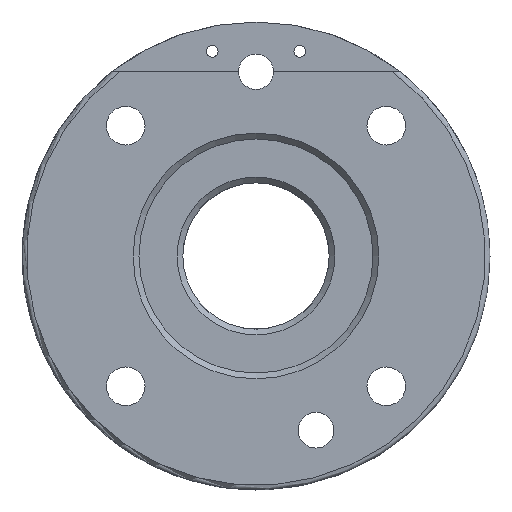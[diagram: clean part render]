
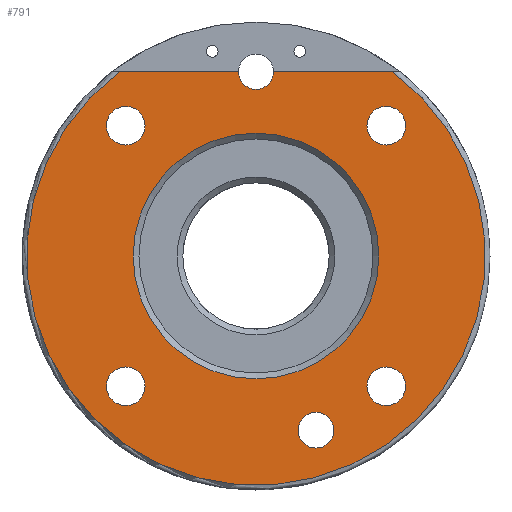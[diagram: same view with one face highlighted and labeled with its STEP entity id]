
A CAD part, front view. The second image highlights one B-rep face of the part: STEP entity #791.
In plain terms, the highlighted planar face has unit normal (0, -1, 0).
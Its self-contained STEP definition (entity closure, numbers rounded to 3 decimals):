
#37=FACE_BOUND('',#167,.T.);
#38=FACE_BOUND('',#168,.T.);
#39=FACE_BOUND('',#169,.T.);
#40=FACE_BOUND('',#170,.T.);
#41=FACE_BOUND('',#171,.T.);
#42=FACE_BOUND('',#172,.T.);
#57=PLANE('',#896);
#109=FACE_OUTER_BOUND('',#166,.T.);
#166=EDGE_LOOP('',(#646,#647,#648,#649));
#167=EDGE_LOOP('',(#650));
#168=EDGE_LOOP('',(#651));
#169=EDGE_LOOP('',(#652));
#170=EDGE_LOOP('',(#653));
#171=EDGE_LOOP('',(#654));
#172=EDGE_LOOP('',(#655));
#186=LINE('',#1177,#228);
#217=LINE('',#1487,#259);
#228=VECTOR('',#934,10.);
#259=VECTOR('',#1095,10.);
#267=CIRCLE('',#825,3.05);
#270=CIRCLE('',#829,39.2);
#286=CIRCLE('',#852,3.3);
#289=CIRCLE('',#858,3.3);
#292=CIRCLE('',#864,3.3);
#295=CIRCLE('',#870,3.3);
#306=CIRCLE('',#897,3.);
#307=CIRCLE('',#898,21.);
#314=VERTEX_POINT('',#1138);
#315=VERTEX_POINT('',#1142);
#319=VERTEX_POINT('',#1158);
#322=VERTEX_POINT('',#1175);
#337=VERTEX_POINT('',#1216);
#340=VERTEX_POINT('',#1227);
#343=VERTEX_POINT('',#1238);
#346=VERTEX_POINT('',#1249);
#376=VERTEX_POINT('',#1486);
#377=VERTEX_POINT('',#1491);
#384=EDGE_CURVE('',#314,#314,#267,.T.);
#389=EDGE_CURVE('',#319,#315,#270,.T.);
#393=EDGE_CURVE('',#319,#322,#186,.T.);
#413=EDGE_CURVE('',#337,#337,#286,.T.);
#418=EDGE_CURVE('',#340,#340,#289,.T.);
#423=EDGE_CURVE('',#343,#343,#292,.T.);
#428=EDGE_CURVE('',#346,#346,#295,.T.);
#473=EDGE_CURVE('',#376,#315,#217,.T.);
#475=EDGE_CURVE('',#322,#376,#306,.T.);
#476=EDGE_CURVE('',#377,#377,#307,.T.);
#646=ORIENTED_EDGE('',*,*,#389,.F.);
#647=ORIENTED_EDGE('',*,*,#393,.T.);
#648=ORIENTED_EDGE('',*,*,#475,.T.);
#649=ORIENTED_EDGE('',*,*,#473,.T.);
#650=ORIENTED_EDGE('',*,*,#384,.T.);
#651=ORIENTED_EDGE('',*,*,#413,.T.);
#652=ORIENTED_EDGE('',*,*,#418,.T.);
#653=ORIENTED_EDGE('',*,*,#423,.T.);
#654=ORIENTED_EDGE('',*,*,#428,.T.);
#655=ORIENTED_EDGE('',*,*,#476,.F.);
#791=ADVANCED_FACE('',(#109,#37,#38,#39,#40,#41,#42),#57,.T.);
#825=AXIS2_PLACEMENT_3D('',#1140,#919,#920);
#829=AXIS2_PLACEMENT_3D('',#1169,#927,#928);
#852=AXIS2_PLACEMENT_3D('',#1218,#981,#982);
#858=AXIS2_PLACEMENT_3D('',#1229,#995,#996);
#864=AXIS2_PLACEMENT_3D('',#1240,#1009,#1010);
#870=AXIS2_PLACEMENT_3D('',#1251,#1023,#1024);
#896=AXIS2_PLACEMENT_3D('',#1489,#1097,#1098);
#897=AXIS2_PLACEMENT_3D('',#1490,#1099,#1100);
#898=AXIS2_PLACEMENT_3D('',#1492,#1101,#1102);
#919=DIRECTION('center_axis',(0.,1.,0.));
#920=DIRECTION('ref_axis',(1.,0.,0.));
#927=DIRECTION('center_axis',(0.,1.,0.));
#928=DIRECTION('ref_axis',(0.,0.,-1.));
#934=DIRECTION('',(-1.,0.,0.));
#981=DIRECTION('center_axis',(0.,1.,0.));
#982=DIRECTION('ref_axis',(1.,0.,0.));
#995=DIRECTION('center_axis',(0.,1.,0.));
#996=DIRECTION('ref_axis',(1.,0.,0.));
#1009=DIRECTION('center_axis',(0.,1.,0.));
#1010=DIRECTION('ref_axis',(1.,0.,0.));
#1023=DIRECTION('center_axis',(0.,1.,0.));
#1024=DIRECTION('ref_axis',(1.,0.,0.));
#1095=DIRECTION('',(-1.,0.,0.));
#1097=DIRECTION('center_axis',(0.,-1.,0.));
#1098=DIRECTION('ref_axis',(0.,0.,-1.));
#1099=DIRECTION('center_axis',(0.,1.,0.));
#1100=DIRECTION('ref_axis',(1.,0.,0.));
#1101=DIRECTION('center_axis',(0.,-1.,0.));
#1102=DIRECTION('ref_axis',(-1.,0.,0.));
#1138=CARTESIAN_POINT('',(7.205,0.,-29.784));
#1140=CARTESIAN_POINT('Origin',(10.255,0.,-29.784));
#1142=CARTESIAN_POINT('',(-23.332,0.,31.5));
#1158=CARTESIAN_POINT('',(23.332,0.,31.5));
#1169=CARTESIAN_POINT('Origin',(0.,0.,0.));
#1175=CARTESIAN_POINT('',(3.,0.,31.5));
#1177=CARTESIAN_POINT('',(-25.451,0.,31.5));
#1216=CARTESIAN_POINT('',(18.974,0.,22.274));
#1218=CARTESIAN_POINT('Origin',(22.274,0.,22.274));
#1227=CARTESIAN_POINT('',(-25.574,0.,22.274));
#1229=CARTESIAN_POINT('Origin',(-22.274,0.,22.274));
#1238=CARTESIAN_POINT('',(-25.574,0.,-22.274));
#1240=CARTESIAN_POINT('Origin',(-22.274,0.,-22.274));
#1249=CARTESIAN_POINT('',(18.974,0.,-22.274));
#1251=CARTESIAN_POINT('Origin',(22.274,0.,-22.274));
#1486=CARTESIAN_POINT('',(-3.,0.,31.5));
#1487=CARTESIAN_POINT('',(-25.451,0.,31.5));
#1489=CARTESIAN_POINT('Origin',(-26.25,0.,0.));
#1490=CARTESIAN_POINT('Origin',(0.,0.,31.5));
#1491=CARTESIAN_POINT('',(21.,0.,0.));
#1492=CARTESIAN_POINT('Origin',(0.,0.,0.));
